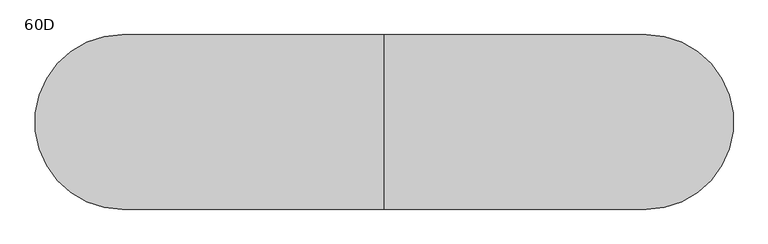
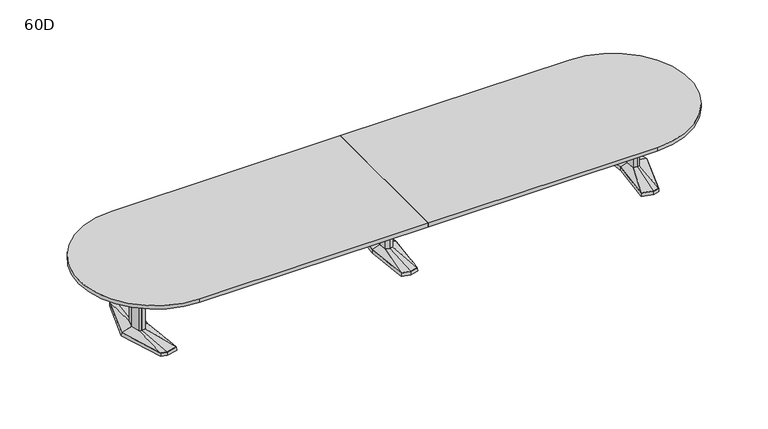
"""IFC4 building model written with IfcOpenShell, lengths in millimetres: furniture geometry, Coalesse_AM_Table_Conference_ETable2_Racetrack_20ft_AluminiumBase : 60D."""

from ifc_helpers import new_model, si_unit, point, frame, frame_2d, origin, place, context, project, spatial, polyline, circle_curve, trimmed, segment, composite_curve, outline, extrude, faceted_brep, source, transform, mapped, element, save
from ifc_brep_helpers import plane_surface, spline_surface, advanced_brep


def furniture_60d_811de827(model_context):
    return source(origin(), model_context, "Body", "SolidModel", [
        faceted_brep([(-81.2333791, -433.8053819, 38.1), (0.0, -455.556576, 38.1), (81.2333791, -433.8053819, 38.1), (119.0564774, 0.0, 38.1), (81.2333791, 433.8053819, 38.1), (0.0, 455.556576, 38.1), (-81.2333791, 433.8053819, 38.1), (-119.0564774, 0.0, 38.1), (-82.7182795, -435.0512063, 3.175), (-120.65, 0.0, 3.175), (-82.7182795, 435.0512063, 3.175), (0.0, 457.2, 3.175), (82.7182795, 435.0512063, 3.175), (120.65, 0.0, 3.175), (82.7182795, -435.0512063, 3.175), (0.0, -457.2, 3.175), (0.0, 429.2617927, 3.175), (-77.9676806, 408.3850278, 3.175), (-74.7019821, 382.9646737, 3.175), (0.0, 402.9670094, 3.175), (74.7019821, 382.9646737, 3.175), (77.9676806, 408.3850278, 3.175), (0.0, -429.2617927, 3.175), (77.9676806, -408.3850278, 3.175), (74.7019821, -382.9646737, 3.175), (0.0, -402.9670094, 3.175), (-74.7019821, -382.9646737, 3.175), (-77.9676806, -408.3850278, 3.175), (-71.8574262, 114.6326257, 3.175), (-82.5426076, 0.0, 3.175), (-71.8574262, -114.6326257, 3.175), (0.0, -133.8761372, 3.175), (71.8574262, -114.6326257, 3.175), (82.5426076, 0.0, 3.175), (71.8574262, 114.6326257, 3.175), (0.0, 133.8761372, 3.175), (0.0, 429.2617927, 0.0), (77.9676806, 408.3850278, 0.0), (74.7019821, 382.9646737, 0.0), (0.0, 402.9670094, 0.0), (-74.7019821, 382.9646737, 0.0), (-77.9676806, 408.3850278, 0.0), (0.0, -429.2617927, 0.0), (-77.9676806, -408.3850278, 0.0), (-74.7019821, -382.9646737, 0.0), (0.0, -402.9670094, 0.0), (74.7019821, -382.9646737, 0.0), (77.9676806, -408.3850278, 0.0), (-71.8574262, 114.6326257, 0.0), (0.0, 133.8761372, 0.0), (71.8574262, 114.6326257, 0.0), (82.5426076, 0.0, 0.0), (71.8574262, -114.6326257, 0.0), (0.0, -133.8761372, 0.0), (-71.8574262, -114.6326257, 0.0), (-82.5426076, 0.0, 0.0)], [[[0, 1, 2, 3, 4, 5, 6, 7]], [[8, 9, 10, 11, 12, 13, 14, 15], [16, 17, 18, 19, 20, 21], [22, 23, 24, 25, 26, 27], [28, 29, 30, 31, 32, 33, 34, 35]], [[1, 0, 8, 15]], [[2, 1, 15, 14]], [[3, 2, 14, 13]], [[4, 3, 13, 12]], [[5, 4, 12, 11]], [[6, 5, 11, 10]], [[7, 6, 10, 9]], [[0, 7, 9, 8]], [[36, 37, 38, 39, 40, 41]], [[42, 43, 44, 45, 46, 47]], [[48, 49, 50, 51, 52, 53, 54, 55]], [[36, 41, 17, 16]], [[41, 40, 18, 17]], [[40, 39, 19, 18]], [[39, 38, 20, 19]], [[38, 37, 21, 20]], [[37, 36, 16, 21]], [[42, 47, 23, 22]], [[47, 46, 24, 23]], [[46, 45, 25, 24]], [[45, 44, 26, 25]], [[44, 43, 27, 26]], [[43, 42, 22, 27]], [[48, 55, 29, 28]], [[55, 54, 30, 29]], [[54, 53, 31, 30]], [[53, 52, 32, 31]], [[52, 51, 33, 32]], [[51, 50, 34, 33]], [[50, 49, 35, 34]], [[49, 48, 28, 35]]]),
        faceted_brep([(-36.3832834, 84.6900825, 698.5), (-44.2774487, 0.0, 698.5), (-36.3832834, -84.6900825, 698.5), (0.0, -94.4335728, 698.5), (36.3832834, -84.6900825, 698.5), (44.2774487, 0.0, 698.5), (36.3832834, 84.6900825, 698.5), (0.0, 94.4335728, 698.5), (-36.3832834, 84.6900825, 63.5), (0.0, 94.4335728, 63.5), (36.3832834, 84.6900825, 63.5), (44.2774487, 0.0, 63.5), (36.3832834, -84.6900825, 63.5), (0.0, -94.4335728, 63.5), (-36.3832834, -84.6900825, 63.5), (-44.2774487, 0.0, 63.5)], [[[0, 1, 2, 3, 4, 5, 6, 7]], [[8, 9, 10, 11, 12, 13, 14, 15]], [[1, 0, 8, 15]], [[2, 1, 15, 14]], [[3, 2, 14, 13]], [[4, 3, 13, 12]], [[5, 4, 12, 11]], [[6, 5, 11, 10]], [[7, 6, 10, 9]], [[0, 7, 9, 8]]]),
        advanced_brep(
        [(-36.3832834, 84.6900825, 63.5), (-44.2774487, 0.0, 63.5), (-36.3832834, -84.6900825, 63.5), (0.0, -94.4335728, 63.5), (36.3832834, -84.6900825, 63.5), (44.2774487, 0.0, 63.5), (36.3832834, 84.6900825, 63.5), (0.0, 94.4335728, 63.5), (-81.2333791, 433.8053819, 38.1), (0.0, 455.556576, 38.1), (81.2333791, 433.8053819, 38.1), (119.0564774, 0.0, 38.1), (81.2333791, -433.8053819, 38.1), (0.0, -455.556576, 38.1), (-81.2333791, -433.8053819, 38.1), (-119.0564774, 0.0, 38.1)],
        [
            (0, 1),
            (1, 2),
            (2, 3),
            (3, 4),
            (4, 5),
            (5, 6),
            (6, 7),
            (7, 0),
            (8, 9),
            (9, 10),
            (10, 11),
            (11, 12),
            (12, 13),
            (13, 14),
            (14, 15),
            (15, 8),
            (15, 1),
            (0, 8),
            (14, 2),
            (13, 3),
            (12, 4),
            (11, 5),
            (10, 6),
            (9, 7),
        ],
        [
            plane_surface(frame((0.0, 0.0, 63.5), z_axis=(0.0, 0.0, 1.0000000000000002), x_axis=(-0.9659615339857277, -0.25868574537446, 0.0))),
            plane_surface(frame((0.0, 0.0, 38.1), z_axis=(0.0, 0.0, -1.0000000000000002), x_axis=(-0.9659615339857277, -0.25868574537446, 0.0))),
            spline_surface(1, 1, [[(-81.2333791, 433.8053819, 38.1), (-36.3832834, 84.6900825, 63.5)], [(-119.0564774, 0.0, 38.1), (-44.2774487, 0.0, 63.5)]], [2, 2], [2, 2], [0.0, 1.0], [0.0, 1.0]),
            spline_surface(1, 1, [[(-119.0564774, 0.0, 38.1), (-44.2774487, 0.0, 63.5)], [(-81.2333791, -433.8053819, 38.1), (-36.3832834, -84.6900825, 63.5)]], [2, 2], [2, 2], [0.0, 1.0], [0.0, 1.0]),
            spline_surface(1, 1, [[(-81.2333791, -433.8053819, 38.1), (-36.3832834, -84.6900825, 63.5)], [(0.0, -455.556576, 38.1), (0.0, -94.4335728, 63.5)]], [2, 2], [2, 2], [0.0, 1.0], [0.0, 1.0]),
            spline_surface(1, 1, [[(0.0, -455.556576, 38.1), (0.0, -94.4335728, 63.5)], [(81.2333791, -433.8053819, 38.1), (36.3832834, -84.6900825, 63.5)]], [2, 2], [2, 2], [0.0, 1.0], [0.0, 1.0]),
            spline_surface(1, 1, [[(81.2333791, -433.8053819, 38.1), (36.3832834, -84.6900825, 63.5)], [(119.0564774, 0.0, 38.1), (44.2774487, 0.0, 63.5)]], [2, 2], [2, 2], [0.0, 1.0], [0.0, 1.0]),
            spline_surface(1, 1, [[(119.0564774, 0.0, 38.1), (44.2774487, 0.0, 63.5)], [(81.2333791, 433.8053819, 38.1), (36.3832834, 84.6900825, 63.5)]], [2, 2], [2, 2], [0.0, 1.0], [0.0, 1.0]),
            spline_surface(1, 1, [[(81.2333791, 433.8053819, 38.1), (36.3832834, 84.6900825, 63.5)], [(0.0, 455.556576, 38.1), (0.0, 94.4335728, 63.5)]], [2, 2], [2, 2], [0.0, 1.0], [0.0, 1.0]),
            spline_surface(1, 1, [[(0.0, 455.556576, 38.1), (0.0, 94.4335728, 63.5)], [(-81.2333791, 433.8053819, 38.1), (-36.3832834, 84.6900825, 63.5)]], [2, 2], [2, 2], [0.0, 1.0], [0.0, 1.0]),
        ],
        [
            (0, [[1, 2, 3, 4, 5, 6, 7, 8]]),
            (1, [[9, 10, 11, 12, 13, 14, 15, 16]]),
            (2, [[-16, 17, -1, 18]]),
            (3, [[-15, 19, -2, -17]]),
            (4, [[-14, 20, -3, -19]]),
            (5, [[-13, 21, -4, -20]]),
            (6, [[-12, 22, -5, -21]]),
            (7, [[-11, 23, -6, -22]]),
            (8, [[-10, 24, -7, -23]]),
            (9, [[-9, -18, -8, -24]]),
        ],
    ),
        faceted_brep([(2429.8306835, 455.5848221, 38.1), (2320.2531277, 426.2263816, 38.1), (2361.4163717, 0.0, 38.1), (2320.2531277, -426.2263816, 38.1), (2429.8306835, -455.5848221, 38.1), (2485.9570396, -440.5478297, 38.1), (2623.2684269, 0.0, 38.1), (2485.9570396, 440.5478297, 38.1), (2429.8306754, 457.2283104, 3.175), (2487.2124472, 441.8549756, 3.175), (2624.93125, 0.0, 3.175), (2487.2124472, -441.8549756, 3.175), (2429.8306754, -457.2283104, 3.175), (2318.54375, -427.4118891, 3.175), (2359.8214856, 0.0, 3.175), (2318.54375, 427.4118891, 3.175), (2433.420115, 428.3273875, 3.175), (2328.3718228, 402.1057253, 3.175), (2336.490518, 377.985069, 3.175), (2437.0095466, 401.0699529, 3.175), (2487.5691725, 387.524361, 3.175), (2486.7631061, 414.0360954, 3.175), (2433.420115, -428.3273875, 3.175), (2486.7631061, -414.0360954, 3.175), (2487.5691725, -387.524361, 3.175), (2437.0095466, -401.0699529, 3.175), (2336.490518, -377.985069, 3.175), (2328.3718228, -402.1057253, 3.175), (2560.0153621, 0.0, 3.175), (2527.7459611, 120.4193755, 3.175), (2479.0987222, 133.471665, 3.175), (2399.2180526, 119.4176561, 3.175), (2388.0868466, 0.0, 3.175), (2399.2180526, -119.4176561, 3.175), (2479.0987222, -133.471665, 3.175), (2527.7459611, -120.4193755, 3.175), (2433.420115, 428.3273875, 0.0), (2486.7631061, 414.0360954, 0.0), (2487.5691725, 387.524361, 0.0), (2437.0095466, 401.0699529, 0.0), (2336.490518, 377.985069, 0.0), (2328.3718228, 402.1057253, 0.0), (2433.420115, -428.3273875, 0.0), (2328.3718228, -402.1057253, 0.0), (2336.490518, -377.985069, 0.0), (2437.0095466, -401.0699529, 0.0), (2487.5691725, -387.524361, 0.0), (2486.7631061, -414.0360954, 0.0), (2560.0153621, 0.0, 0.0), (2527.7459611, -120.4193755, 0.0), (2479.0987222, -133.471665, 0.0), (2399.2180526, -119.4176561, 0.0), (2388.0868466, 0.0, 0.0), (2399.2180526, 119.4176561, 0.0), (2479.0987222, 133.471665, 0.0), (2527.7459611, 120.4193755, 0.0)], [[[0, 1, 2, 3, 4, 5, 6, 7]], [[8, 9, 10, 11, 12, 13, 14, 15], [16, 17, 18, 19, 20, 21], [22, 23, 24, 25, 26, 27], [28, 29, 30, 31, 32, 33, 34, 35]], [[7, 9, 8, 0]], [[6, 10, 9, 7]], [[5, 11, 10, 6]], [[4, 12, 11, 5]], [[3, 13, 12, 4]], [[2, 14, 13, 3]], [[1, 15, 14, 2]], [[0, 8, 15, 1]], [[36, 37, 38, 39, 40, 41]], [[42, 43, 44, 45, 46, 47]], [[48, 49, 50, 51, 52, 53, 54, 55]], [[36, 16, 21, 37]], [[37, 21, 20, 38]], [[38, 20, 19, 39]], [[39, 19, 18, 40]], [[40, 18, 17, 41]], [[41, 17, 16, 36]], [[42, 22, 27, 43]], [[43, 27, 26, 44]], [[44, 26, 25, 45]], [[45, 25, 24, 46]], [[46, 24, 23, 47]], [[47, 23, 22, 42]], [[48, 28, 35, 49]], [[49, 35, 34, 50]], [[50, 34, 33, 51]], [[51, 33, 32, 52]], [[52, 32, 31, 53]], [[53, 31, 30, 54]], [[54, 30, 29, 55]], [[55, 29, 28, 48]]]),
        faceted_brep([(2520.5710836, 0.0, 698.5), (2496.6358546, 89.3188359, 698.5), (2479.7824984, 93.8406728, 698.5), (2477.3826511, 94.4845635, 698.5), (2434.455146, 86.9320037, 698.5), (2426.3520056, 0.0, 698.5), (2434.455146, -86.9320037, 698.5), (2477.3826511, -94.4845635, 698.5), (2479.7824984, -93.8406728, 698.5), (2496.6358546, -89.3188359, 698.5), (2520.5710836, 0.0, 63.5), (2496.6358546, -89.3188359, 63.5), (2479.7824984, -93.8406728, 63.5), (2477.3826511, -94.4845635, 63.5), (2434.455146, -86.9320037, 63.5), (2426.3520056, 0.0, 63.5), (2434.455146, 86.9320037, 63.5), (2477.3826511, 94.4845635, 63.5), (2479.7824984, 93.8406728, 63.5), (2496.6358546, 89.3188359, 63.5)], [[[0, 1, 2, 3, 4, 5, 6, 7, 8, 9]], [[10, 11, 12, 13, 14, 15, 16, 17, 18, 19]], [[9, 11, 10, 0]], [[8, 12, 11, 9]], [[7, 13, 12, 8]], [[6, 14, 13, 7]], [[5, 15, 14, 6]], [[4, 16, 15, 5]], [[3, 17, 16, 4]], [[2, 18, 17, 3]], [[1, 19, 18, 2]], [[0, 10, 19, 1]]]),
        advanced_brep(
        [(2477.3826511, 94.4845635, 63.5), (2434.455146, 86.9320037, 63.5), (2426.3520056, 0.0, 63.5), (2434.455146, -86.9320037, 63.5), (2477.3826511, -94.4845635, 63.5), (2496.6358546, -89.3188359, 63.5), (2520.5710836, 0.0, 63.5), (2496.6358546, 89.3188359, 63.5), (2429.8306835, 455.5848221, 38.1), (2485.9570396, 440.5478297, 38.1), (2623.2684269, 0.0, 38.1), (2485.9570396, -440.5478297, 38.1), (2429.8306835, -455.5848221, 38.1), (2320.2531277, -426.2263816, 38.1), (2361.4163717, 0.0, 38.1), (2320.2531277, 426.2263816, 38.1)],
        [
            (0, 1),
            (1, 2),
            (2, 3),
            (3, 4),
            (4, 5),
            (5, 6),
            (6, 7),
            (7, 0),
            (8, 9),
            (9, 10),
            (10, 11),
            (11, 12),
            (12, 13),
            (13, 14),
            (14, 15),
            (15, 8),
            (8, 0),
            (7, 9),
            (6, 10),
            (5, 11),
            (4, 12),
            (3, 13),
            (2, 14),
            (1, 15),
        ],
        [
            plane_surface(frame((2470.4837991, 0.0, 63.5), z_axis=(0.0, 0.0, 1.0), x_axis=(-0.25884244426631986, -0.9659195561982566, 0.0))),
            plane_surface(frame((2432.0958125, 0.0, 38.1), z_axis=(0.0, 0.0, -1.0), x_axis=(-0.25884244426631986, -0.9659195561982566, 0.0))),
            spline_surface(1, 1, [[(2429.8306835, 455.5848221, 38.1), (2485.9570396, 440.5478297, 38.1)], [(2477.3826511, 94.4845635, 63.5), (2496.6358546, 89.3188359, 63.5)]], [2, 2], [2, 2], [0.0, 1.0], [0.0, 1.0]),
            spline_surface(1, 1, [[(2485.9570396, 440.5478297, 38.1), (2623.2684269, 0.0, 38.1)], [(2496.6358546, 89.3188359, 63.5), (2520.5710836, 0.0, 63.5)]], [2, 2], [2, 2], [0.0, 1.0], [0.0, 1.0]),
            spline_surface(1, 1, [[(2623.2684269, 0.0, 38.1), (2485.9570396, -440.5478297, 38.1)], [(2520.5710836, 0.0, 63.5), (2496.6358546, -89.3188359, 63.5)]], [2, 2], [2, 2], [0.0, 1.0], [0.0, 1.0]),
            spline_surface(1, 1, [[(2485.9570396, -440.5478297, 38.1), (2429.8306835, -455.5848221, 38.1)], [(2496.6358546, -89.3188359, 63.5), (2477.3826511, -94.4845635, 63.5)]], [2, 2], [2, 2], [0.0, 1.0], [0.0, 1.0]),
            spline_surface(1, 1, [[(2429.8306835, -455.5848221, 38.1), (2320.2531277, -426.2263816, 38.1)], [(2477.3826511, -94.4845635, 63.5), (2434.455146, -86.9320037, 63.5)]], [2, 2], [2, 2], [0.0, 1.0], [0.0, 1.0]),
            spline_surface(1, 1, [[(2320.2531277, -426.2263816, 38.1), (2361.4163717, 0.0, 38.1)], [(2434.455146, -86.9320037, 63.5), (2426.3520056, 0.0, 63.5)]], [2, 2], [2, 2], [0.0, 1.0], [0.0, 1.0]),
            spline_surface(1, 1, [[(2361.4163717, 0.0, 38.1), (2320.2531277, 426.2263816, 38.1)], [(2426.3520056, 0.0, 63.5), (2434.455146, 86.9320037, 63.5)]], [2, 2], [2, 2], [0.0, 1.0], [0.0, 1.0]),
            spline_surface(1, 1, [[(2320.2531277, 426.2263816, 38.1), (2429.8306835, 455.5848221, 38.1)], [(2434.455146, 86.9320037, 63.5), (2477.3826511, 94.4845635, 63.5)]], [2, 2], [2, 2], [0.0, 1.0], [0.0, 1.0]),
        ],
        [
            (0, [[1, 2, 3, 4, 5, 6, 7, 8]]),
            (1, [[9, 10, 11, 12, 13, 14, 15, 16]]),
            (2, [[17, -8, 18, -9]]),
            (3, [[-18, -7, 19, -10]]),
            (4, [[-19, -6, 20, -11]]),
            (5, [[-20, -5, 21, -12]]),
            (6, [[-21, -4, 22, -13]]),
            (7, [[-22, -3, 23, -14]]),
            (8, [[-23, -2, 24, -15]]),
            (9, [[-24, -1, -17, -16]]),
        ],
    ),
        faceted_brep([(-2429.8306835, 455.5848221, 38.1), (-2485.9570396, 440.5478297, 38.1), (-2623.2684269, 0.0, 38.1), (-2485.9570396, -440.5478297, 38.1), (-2429.8306835, -455.5848221, 38.1), (-2320.2531277, -426.2263816, 38.1), (-2361.4163717, 0.0, 38.1), (-2320.2531277, 426.2263816, 38.1), (-2429.8306754, 457.2283104, 3.175), (-2318.54375, 427.4118891, 3.175), (-2359.8214856, 0.0, 3.175), (-2318.54375, -427.4118891, 3.175), (-2429.8306754, -457.2283104, 3.175), (-2487.2124472, -441.8549756, 3.175), (-2624.93125, 0.0, 3.175), (-2487.2124472, 441.8549756, 3.175), (-2433.420115, 428.3273875, 3.175), (-2486.7631061, 414.0360954, 3.175), (-2487.5691725, 387.524361, 3.175), (-2437.0095466, 401.0699529, 3.175), (-2336.490518, 377.985069, 3.175), (-2328.3718228, 402.1057253, 3.175), (-2433.420115, -428.3273875, 3.175), (-2328.3718228, -402.1057253, 3.175), (-2336.490518, -377.985069, 3.175), (-2437.0095466, -401.0699529, 3.175), (-2487.5691725, -387.524361, 3.175), (-2486.7631061, -414.0360954, 3.175), (-2560.0153621, 0.0, 3.175), (-2527.7459611, -120.4193755, 3.175), (-2479.0987222, -133.471665, 3.175), (-2399.2180526, -119.4176561, 3.175), (-2388.0868466, 0.0, 3.175), (-2399.2180526, 119.4176561, 3.175), (-2479.0987222, 133.471665, 3.175), (-2527.7459611, 120.4193755, 3.175), (-2433.420115, 428.3273875, 0.0), (-2328.3718228, 402.1057253, 0.0), (-2336.490518, 377.985069, 0.0), (-2437.0095466, 401.0699529, 0.0), (-2487.5691725, 387.524361, 0.0), (-2486.7631061, 414.0360954, 0.0), (-2433.420115, -428.3273875, 0.0), (-2486.7631061, -414.0360954, 0.0), (-2487.5691725, -387.524361, 0.0), (-2437.0095466, -401.0699529, 0.0), (-2336.490518, -377.985069, 0.0), (-2328.3718228, -402.1057253, 0.0), (-2560.0153621, 0.0, 0.0), (-2527.7459611, 120.4193755, 0.0), (-2479.0987222, 133.471665, 0.0), (-2399.2180526, 119.4176561, 0.0), (-2388.0868466, 0.0, 0.0), (-2399.2180526, -119.4176561, 0.0), (-2479.0987222, -133.471665, 0.0), (-2527.7459611, -120.4193755, 0.0)], [[[0, 1, 2, 3, 4, 5, 6, 7]], [[8, 9, 10, 11, 12, 13, 14, 15], [16, 17, 18, 19, 20, 21], [22, 23, 24, 25, 26, 27], [28, 29, 30, 31, 32, 33, 34, 35]], [[1, 0, 8, 15]], [[2, 1, 15, 14]], [[3, 2, 14, 13]], [[4, 3, 13, 12]], [[5, 4, 12, 11]], [[6, 5, 11, 10]], [[7, 6, 10, 9]], [[0, 7, 9, 8]], [[36, 37, 38, 39, 40, 41]], [[42, 43, 44, 45, 46, 47]], [[48, 49, 50, 51, 52, 53, 54, 55]], [[36, 41, 17, 16]], [[41, 40, 18, 17]], [[40, 39, 19, 18]], [[39, 38, 20, 19]], [[38, 37, 21, 20]], [[37, 36, 16, 21]], [[42, 47, 23, 22]], [[47, 46, 24, 23]], [[46, 45, 25, 24]], [[45, 44, 26, 25]], [[44, 43, 27, 26]], [[43, 42, 22, 27]], [[48, 55, 29, 28]], [[55, 54, 30, 29]], [[54, 53, 31, 30]], [[53, 52, 32, 31]], [[52, 51, 33, 32]], [[51, 50, 34, 33]], [[50, 49, 35, 34]], [[49, 48, 28, 35]]]),
        faceted_brep([(-2520.5710836, 0.0, 698.5), (-2496.6358546, -89.3188359, 698.5), (-2479.7824984, -93.8406728, 698.5), (-2477.3826511, -94.4845635, 698.5), (-2434.455146, -86.9320037, 698.5), (-2426.3520056, 0.0, 698.5), (-2434.455146, 86.9320037, 698.5), (-2477.3826511, 94.4845635, 698.5), (-2479.7824984, 93.8406728, 698.5), (-2496.6358546, 89.3188359, 698.5), (-2520.5710836, 0.0, 63.5), (-2496.6358546, 89.3188359, 63.5), (-2479.7824984, 93.8406728, 63.5), (-2477.3826511, 94.4845635, 63.5), (-2434.455146, 86.9320037, 63.5), (-2426.3520056, 0.0, 63.5), (-2434.455146, -86.9320037, 63.5), (-2477.3826511, -94.4845635, 63.5), (-2479.7824984, -93.8406728, 63.5), (-2496.6358546, -89.3188359, 63.5)], [[[0, 1, 2, 3, 4, 5, 6, 7, 8, 9]], [[10, 11, 12, 13, 14, 15, 16, 17, 18, 19]], [[1, 0, 10, 19]], [[2, 1, 19, 18]], [[3, 2, 18, 17]], [[4, 3, 17, 16]], [[5, 4, 16, 15]], [[6, 5, 15, 14]], [[7, 6, 14, 13]], [[8, 7, 13, 12]], [[9, 8, 12, 11]], [[0, 9, 11, 10]]]),
        advanced_brep(
        [(-2477.3826511, 94.4845635, 63.5), (-2496.6358546, 89.3188359, 63.5), (-2520.5710836, 0.0, 63.5), (-2496.6358546, -89.3188359, 63.5), (-2477.3826511, -94.4845635, 63.5), (-2434.455146, -86.9320037, 63.5), (-2426.3520056, 0.0, 63.5), (-2434.455146, 86.9320037, 63.5), (-2429.8306835, 455.5848221, 38.1), (-2320.2531277, 426.2263816, 38.1), (-2361.4163717, 0.0, 38.1), (-2320.2531277, -426.2263816, 38.1), (-2429.8306835, -455.5848221, 38.1), (-2485.9570396, -440.5478297, 38.1), (-2623.2684269, 0.0, 38.1), (-2485.9570396, 440.5478297, 38.1)],
        [
            (0, 1),
            (1, 2),
            (2, 3),
            (3, 4),
            (4, 5),
            (5, 6),
            (6, 7),
            (7, 0),
            (8, 9),
            (9, 10),
            (10, 11),
            (11, 12),
            (12, 13),
            (13, 14),
            (14, 15),
            (15, 8),
            (15, 1),
            (0, 8),
            (14, 2),
            (13, 3),
            (12, 4),
            (11, 5),
            (10, 6),
            (9, 7),
        ],
        [
            plane_surface(frame((-2470.4837991, 0.0, 63.5), z_axis=(0.0, 0.0, 1.0), x_axis=(0.25884244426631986, -0.9659195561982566, 0.0))),
            plane_surface(frame((-2432.0958125, 0.0, 38.1), z_axis=(0.0, 0.0, -1.0), x_axis=(0.25884244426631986, -0.9659195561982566, 0.0))),
            spline_surface(1, 1, [[(-2429.8306835, 455.5848221, 38.1), (-2477.3826511, 94.4845635, 63.5)], [(-2485.9570396, 440.5478297, 38.1), (-2496.6358546, 89.3188359, 63.5)]], [2, 2], [2, 2], [0.0, 1.0], [0.0, 1.0]),
            spline_surface(1, 1, [[(-2485.9570396, 440.5478297, 38.1), (-2496.6358546, 89.3188359, 63.5)], [(-2623.2684269, 0.0, 38.1), (-2520.5710836, 0.0, 63.5)]], [2, 2], [2, 2], [0.0, 1.0], [0.0, 1.0]),
            spline_surface(1, 1, [[(-2623.2684269, 0.0, 38.1), (-2520.5710836, 0.0, 63.5)], [(-2485.9570396, -440.5478297, 38.1), (-2496.6358546, -89.3188359, 63.5)]], [2, 2], [2, 2], [0.0, 1.0], [0.0, 1.0]),
            spline_surface(1, 1, [[(-2485.9570396, -440.5478297, 38.1), (-2496.6358546, -89.3188359, 63.5)], [(-2429.8306835, -455.5848221, 38.1), (-2477.3826511, -94.4845635, 63.5)]], [2, 2], [2, 2], [0.0, 1.0], [0.0, 1.0]),
            spline_surface(1, 1, [[(-2429.8306835, -455.5848221, 38.1), (-2477.3826511, -94.4845635, 63.5)], [(-2320.2531277, -426.2263816, 38.1), (-2434.455146, -86.9320037, 63.5)]], [2, 2], [2, 2], [0.0, 1.0], [0.0, 1.0]),
            spline_surface(1, 1, [[(-2320.2531277, -426.2263816, 38.1), (-2434.455146, -86.9320037, 63.5)], [(-2361.4163717, 0.0, 38.1), (-2426.3520056, 0.0, 63.5)]], [2, 2], [2, 2], [0.0, 1.0], [0.0, 1.0]),
            spline_surface(1, 1, [[(-2361.4163717, 0.0, 38.1), (-2426.3520056, 0.0, 63.5)], [(-2320.2531277, 426.2263816, 38.1), (-2434.455146, 86.9320037, 63.5)]], [2, 2], [2, 2], [0.0, 1.0], [0.0, 1.0]),
            spline_surface(1, 1, [[(-2320.2531277, 426.2263816, 38.1), (-2434.455146, 86.9320037, 63.5)], [(-2429.8306835, 455.5848221, 38.1), (-2477.3826511, 94.4845635, 63.5)]], [2, 2], [2, 2], [0.0, 1.0], [0.0, 1.0]),
        ],
        [
            (0, [[1, 2, 3, 4, 5, 6, 7, 8]]),
            (1, [[9, 10, 11, 12, 13, 14, 15, 16]]),
            (2, [[-16, 17, -1, 18]]),
            (3, [[-15, 19, -2, -17]]),
            (4, [[-14, 20, -3, -19]]),
            (5, [[-13, 21, -4, -20]]),
            (6, [[-12, 22, -5, -21]]),
            (7, [[-11, 23, -6, -22]]),
            (8, [[-10, 24, -7, -23]]),
            (9, [[-9, -18, -8, -24]]),
        ],
    ),
        extrude(outline(polyline([(96.8375, 698.5), (103.1875, 698.5), (103.1875, 476.25), (-103.1875, 476.25), (-103.1875, 698.5), (-96.8375, 698.5), (-96.8375, 482.6), (96.8375, 482.6), (96.8375, 698.5)])), frame((44.2774487, 0.0, 0.0), z_axis=(1.0, 0.0, 0.0), x_axis=(0.0, 1.0, 0.0)), (0.0, 0.0, 1.0), 2382.2163013),
        extrude(outline(composite_curve([segment(trimmed(circle_curve(frame_2d((2286.0, 0.0)), 762.0), [point((2286.0, 762.0))], [point((2286.0, -762.0))], False, "CARTESIAN"), True, "CONTINUOUS"), segment(polyline([(2286.0, -762.0), (0.0, -762.0), (0.0, 762.0), (2286.0, 762.0)]), True, "CONTINUOUS")], self_intersect=False)), frame((0.0, 0.0, 698.5), z_axis=(0.0, 0.0, 1.0), x_axis=(1.0, 0.0, 0.0)), (0.0, 0.0, 1.0), 38.1),
        extrude(outline(composite_curve([segment(polyline([(0.0, 762.0), (0.0, -762.0), (-2286.0, -762.0)]), True, "CONTINUOUS"), segment(trimmed(circle_curve(frame_2d((-2286.0, 0.0)), 762.0), [point((-2286.0, -762.0))], [point((-2286.0, 762.0))], False, "CARTESIAN"), True, "CONTINUOUS"), segment(polyline([(-2286.0, 762.0), (0.0, 762.0)]), True, "CONTINUOUS")], self_intersect=False)), frame((0.0, 0.0, 698.5), z_axis=(0.0, 0.0, 1.0), x_axis=(1.0, 0.0, 0.0)), (0.0, 0.0, 1.0), 38.1),
        extrude(outline(polyline([(96.8375, 698.5), (103.1875, 698.5), (103.1875, 476.25), (-103.1875, 476.25), (-103.1875, 698.5), (-96.8375, 698.5), (-96.8375, 482.6), (96.8375, 482.6), (96.8375, 698.5)])), frame((-2426.49375, 0.0, 0.0), z_axis=(1.0, 0.0, 0.0), x_axis=(0.0, 1.0, 0.0)), (0.0, 0.0, 1.0), 2382.2163013),
    ])


if __name__ == "__main__":
    model = new_model("IFC4")
    model_context = context("Model", 3, world=origin())
    ifc_project = project(units=[si_unit("LENGTHUNIT", "METRE", prefix="MILLI")], contexts=[model_context])
    site = spatial("IfcSite", under=ifc_project)
    building = spatial("IfcBuilding", under=site)
    placement = place(None, origin())
    furniture_60d_shape = furniture_60d_811de827(model_context)
    element("IfcFurniture", 1, ObjectType="Coalesse_AM_Table_Conference_ETable2_Racetrack_20ft_AluminiumBase : 60D", at=placement, inside=building, context=model_context, shape_type="MappedRepresentation", body=[
        mapped(furniture_60d_shape, transform((0.0, 0.0, 0.0), x_axis=(1.0, 0.0, 0.0), y_axis=(0.0, 1.0, 0.0), z_axis=(0.0, 0.0, 1.0))),
    ])
    save(model, "model.ifc")
